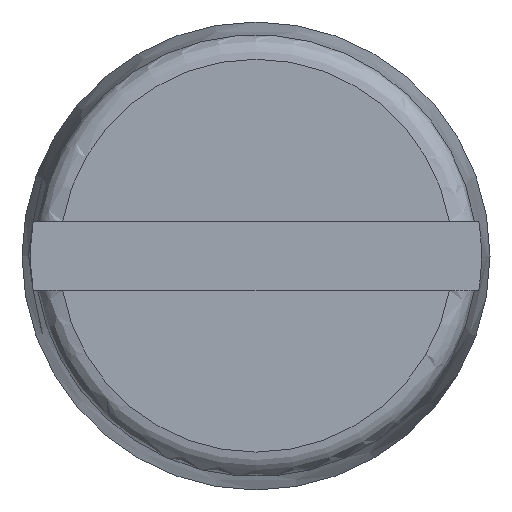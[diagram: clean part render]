
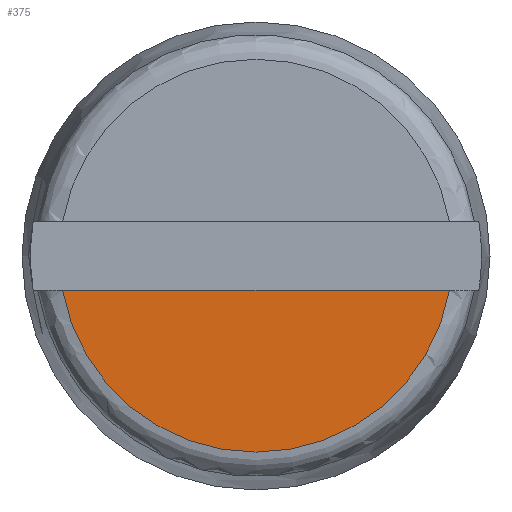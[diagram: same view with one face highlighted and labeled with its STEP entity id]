
A CAD part, top view. The second image highlights one B-rep face of the part: STEP entity #375.
In plain terms, the highlighted planar face has unit normal (0, 0, 1).
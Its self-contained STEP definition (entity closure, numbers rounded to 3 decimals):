
#268 = VERTEX_POINT('',#269);
#269 = CARTESIAN_POINT('',(-1.57,-0.28,1.4));
#290 = EDGE_CURVE('',#268,#291,#293,.T.);
#291 = VERTEX_POINT('',#292);
#292 = CARTESIAN_POINT('',(1.57,-0.28,1.4));
#293 = LINE('',#294,#295);
#294 = CARTESIAN_POINT('',(0.95,-0.28,1.4));
#295 = VECTOR('',#296,1.);
#296 = DIRECTION('',(1.,0.,0.));
#327 = EDGE_CURVE('',#268,#291,#328,.T.);
#328 = CIRCLE('',#329,1.595);
#329 = AXIS2_PLACEMENT_3D('',#330,#331,#332);
#330 = CARTESIAN_POINT('',(0.,0.,1.4));
#331 = DIRECTION('',(0.,0.,1.));
#332 = DIRECTION('',(1.,0.,-0.));
#375 = ADVANCED_FACE('',(#376),#380,.T.);
#376 = FACE_BOUND('',#377,.F.);
#377 = EDGE_LOOP('',(#378,#379));
#378 = ORIENTED_EDGE('',*,*,#290,.T.);
#379 = ORIENTED_EDGE('',*,*,#327,.F.);
#380 = PLANE('',#381);
#381 = AXIS2_PLACEMENT_3D('',#382,#383,#384);
#382 = CARTESIAN_POINT('',(0.,0.,1.4));
#383 = DIRECTION('',(0.,0.,1.));
#384 = DIRECTION('',(1.,0.,-0.));
